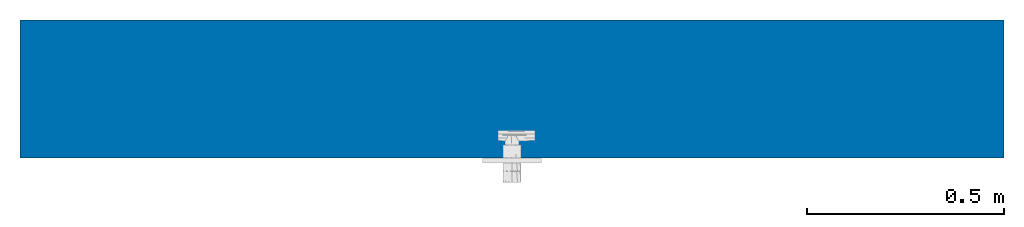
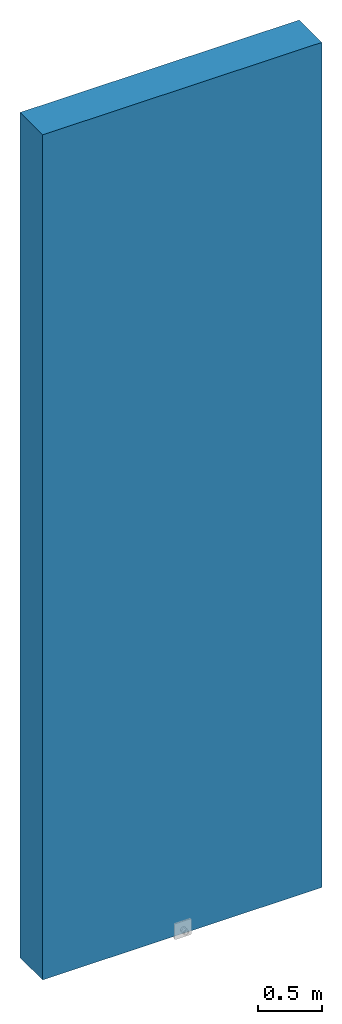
# One storey, incomplete: 1 wall.
"""IFC2X3 building model written with IfcOpenShell, lengths in millimetres."""

from ifc_helpers import new_model, entity, si_unit, converted_unit, derived_unit, direction, frame, frame_2d, origin, place, context, subcontext, project, spatial, rectangle, extrude, type_object, element, save


model = new_model("IFC2X3")

# Units and contexts
model_context = context("Model", 3, precision=0.01, world=origin(), true_north=direction((6.12303176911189e-17, 1.0)))
body_context = subcontext(model_context, "Body", "Model", "MODEL_VIEW")
ifc_project = project(units=[si_unit("LENGTHUNIT", "METRE", prefix="MILLI"), si_unit("AREAUNIT", "SQUARE_METRE"), si_unit("VOLUMEUNIT", "CUBIC_METRE"), converted_unit("PLANEANGLEUNIT", "DEGREE", entity("IfcRatioMeasure", 0.0174532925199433), si_unit("PLANEANGLEUNIT", "RADIAN"), dimensions=[0, 0, 0, 0, 0, 0, 0]), si_unit("MASSUNIT", "GRAM", prefix="KILO"), derived_unit("MASSDENSITYUNIT", [(si_unit("MASSUNIT", "GRAM", prefix="KILO"), 1), (si_unit("LENGTHUNIT", "METRE"), -3)]), derived_unit("MOMENTOFINERTIAUNIT", [(si_unit("LENGTHUNIT", "METRE"), 4)]), si_unit("TIMEUNIT", "SECOND"), si_unit("FREQUENCYUNIT", "HERTZ"), si_unit("THERMODYNAMICTEMPERATUREUNIT", "DEGREE_CELSIUS"), derived_unit("THERMALTRANSMITTANCEUNIT", [(si_unit("MASSUNIT", "GRAM", prefix="KILO"), 1), (si_unit("THERMODYNAMICTEMPERATUREUNIT", "KELVIN"), -1), (si_unit("TIMEUNIT", "SECOND"), -3)]), derived_unit("VOLUMETRICFLOWRATEUNIT", [(si_unit("LENGTHUNIT", "METRE"), 3), (si_unit("TIMEUNIT", "SECOND"), -1)]), si_unit("ELECTRICCURRENTUNIT", "AMPERE"), si_unit("ELECTRICVOLTAGEUNIT", "VOLT"), si_unit("POWERUNIT", "WATT"), si_unit("FORCEUNIT", "NEWTON", prefix="KILO"), si_unit("ILLUMINANCEUNIT", "LUX"), si_unit("LUMINOUSFLUXUNIT", "LUMEN"), si_unit("LUMINOUSINTENSITYUNIT", "CANDELA"), derived_unit("USERDEFINED", [(si_unit("MASSUNIT", "GRAM", prefix="KILO"), -1), (si_unit("LENGTHUNIT", "METRE"), -2), (si_unit("TIMEUNIT", "SECOND"), 3), (si_unit("LUMINOUSFLUXUNIT", "LUMEN"), 1)]), derived_unit("LINEARVELOCITYUNIT", [(si_unit("LENGTHUNIT", "METRE"), 1), (si_unit("TIMEUNIT", "SECOND"), -1)]), si_unit("PRESSUREUNIT", "PASCAL"), derived_unit("USERDEFINED", [(si_unit("LENGTHUNIT", "METRE"), -2), (si_unit("MASSUNIT", "GRAM", prefix="KILO"), 1), (si_unit("TIMEUNIT", "SECOND"), -2)]), derived_unit("LINEARFORCEUNIT", [(si_unit("MASSUNIT", "GRAM", prefix="KILO"), 1), (si_unit("LENGTHUNIT", "METRE"), 1), (si_unit("TIMEUNIT", "SECOND"), -2), (si_unit("LENGTHUNIT", "METRE"), -1)]), derived_unit("PLANARFORCEUNIT", [(si_unit("MASSUNIT", "GRAM", prefix="KILO"), 1), (si_unit("LENGTHUNIT", "METRE"), 1), (si_unit("TIMEUNIT", "SECOND"), -2), (si_unit("LENGTHUNIT", "METRE"), -2)])], contexts=[model_context])

# Site, building, storey
site_placement = place(None, origin())
site = spatial("IfcSite", under=ifc_project, at=site_placement, Name="Default", CompositionType="ELEMENT")
building_placement = place(site_placement, origin())
building = spatial("IfcBuilding", under=site, at=building_placement, CompositionType="ELEMENT")
storey_placement = place(building_placement, origin())
storey = spatial("IfcBuildingStorey", under=building, at=storey_placement, Name="Level 1", CompositionType="ELEMENT", Elevation=0.0)

# Wall
wall_type = type_object("IfcWallType", Name="Basic Wall:Exterior - Brick on Mtl. Stud", PredefinedType="STANDARD")
wall_placement = place(storey_placement, frame((-3815.66816592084, 278.155022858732, 0.0)))
element("IfcWallStandardCase", 1, at=wall_placement, inside=storey, type_object=wall_type, Name="Basic Wall:Exterior - Brick on Mtl. Stud", ObjectType="Basic Wall:Exterior - Brick on Mtl. Stud", context=body_context, shape_type="SweptSolid", body=[
    extrude(rectangle(XDim=2500.0, YDim=350.0, at=frame_2d((1250.0, -1.4210854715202e-14), x_axis=(-1.0, 0.0))), origin(), (0.0, 0.0, 1.0), 8000.0),
])

save(model, "model.ifc")
